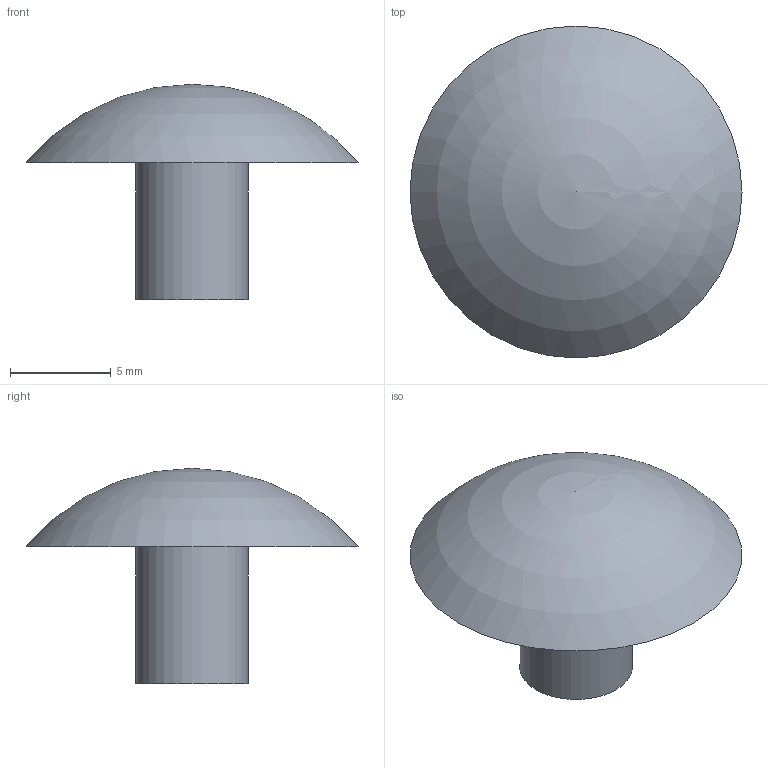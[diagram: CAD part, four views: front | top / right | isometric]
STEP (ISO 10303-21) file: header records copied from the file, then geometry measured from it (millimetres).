
FILE_DESCRIPTION(('Open CASCADE Model'),'2;1');
FILE_NAME('Open CASCADE Shape Model','2026-11-15T18:53:36',('Author'),( 'Open CASCADE'),'Open CASCADE STEP processor 7.9','Open CASCADE 7.9' ,'Unknown');
FILE_SCHEMA(('AUTOMOTIVE_DESIGN { 1 0 10303 214 1 1 1 1 }'));
Length unit declared in the file: millimetre
Products named in the file (1): Open CASCADE STEP translator 7.9 4
Bounding box: 16.5 x 16.5 x 10.7 mm (x, y, z)
Volume: 581 mm3; surface area: 658 mm2
Topology: 1 solids, 1 shells, 17 faces, 42 edges, 28 vertices
Faces by surface type: plane 15, cylinder 1, sphere 1
Full cylindrical faces by diameter (mm): 5.6 x1
Entity records: 1009 total; most frequent: CARTESIAN_POINT 207, DIRECTION 130, LINE 84, VECTOR 84, ORIENTED_EDGE 82, PCURVE 82, DEFINITIONAL_REPRESENTATION 82, EDGE_CURVE 41
